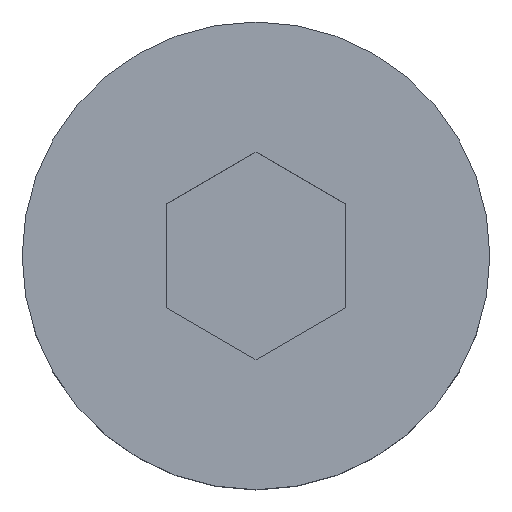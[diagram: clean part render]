
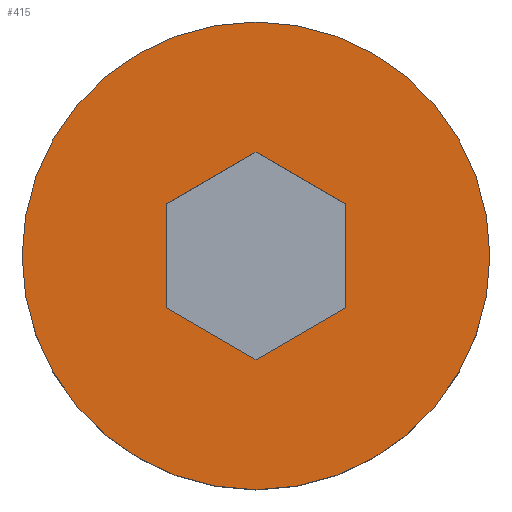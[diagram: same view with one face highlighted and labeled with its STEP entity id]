
A CAD part, top view. The second image highlights one B-rep face of the part: STEP entity #415.
In plain terms, the highlighted planar face has unit normal (0, 0, 1).
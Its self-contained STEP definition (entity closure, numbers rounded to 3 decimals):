
#13 = ORIENTED_EDGE ( 'NONE', *, *, #1077, .F. ) ;
#85 = ORIENTED_EDGE ( 'NONE', *, *, #1045, .F. ) ;
#152 = VECTOR ( 'NONE', #887, 1000. ) ;
#179 = VECTOR ( 'NONE', #514, 1000. ) ;
#182 = CARTESIAN_POINT ( 'NONE',  ( -13., 0., 8. ) ) ;
#192 = AXIS2_PLACEMENT_3D ( 'NONE', #941, #939, #890 ) ;
#220 = VECTOR ( 'NONE', #956, 1000. ) ;
#261 = ORIENTED_EDGE ( 'NONE', *, *, #1073, .F. ) ;
#344 = VERTEX_POINT ( 'NONE', #182 ) ;
#365 = EDGE_LOOP ( 'NONE', ( #1072, #734 ) ) ;
#400 = VERTEX_POINT ( 'NONE', #1049 ) ;
#406 = CARTESIAN_POINT ( 'NONE',  ( -5., 0., 8. ) ) ;
#407 = VECTOR ( 'NONE', #802, 1000. ) ;
#415 = ADVANCED_FACE ( 'NONE', ( #788, #820 ), #996, .F. ) ;
#449 = LINE ( 'NONE', #893, #220 ) ;
#458 = ORIENTED_EDGE ( 'NONE', *, *, #1063, .F. ) ;
#463 = VERTEX_POINT ( 'NONE', #523 ) ;
#466 = LINE ( 'NONE', #880, #511 ) ;
#511 = VECTOR ( 'NONE', #946, 1000. ) ;
#514 = DIRECTION ( 'NONE',  ( 0.866, -0.5, 0. ) ) ;
#523 = CARTESIAN_POINT ( 'NONE',  ( -5., -2.887, 8. ) ) ;
#534 = CARTESIAN_POINT ( 'NONE',  ( 0., -5.774, 8. ) ) ;
#547 = CIRCLE ( 'NONE', #1102, 13. ) ;
#594 = DIRECTION ( 'NONE',  ( 1., 0., 0. ) ) ;
#601 = EDGE_LOOP ( 'NONE', ( #85, #899, #458, #675, #261, #13 ) ) ;
#606 = VERTEX_POINT ( 'NONE', #534 ) ;
#619 = DIRECTION ( 'NONE',  ( 0., 0., 1. ) ) ;
#625 = DIRECTION ( 'NONE',  ( 1., 0., 0. ) ) ;
#661 = CARTESIAN_POINT ( 'NONE',  ( 0., 0., 8. ) ) ;
#675 = ORIENTED_EDGE ( 'NONE', *, *, #1066, .F. ) ;
#683 = LINE ( 'NONE', #406, #407 ) ;
#699 = VECTOR ( 'NONE', #849, 1000. ) ;
#734 = ORIENTED_EDGE ( 'NONE', *, *, #1042, .T. ) ;
#746 = VERTEX_POINT ( 'NONE', #991 ) ;
#755 = DIRECTION ( 'NONE',  ( 0., 0., 1. ) ) ;
#774 = CARTESIAN_POINT ( 'NONE',  ( 0., 5.774, 8. ) ) ;
#786 = CARTESIAN_POINT ( 'NONE',  ( 5., -2.887, 8. ) ) ;
#788 = FACE_OUTER_BOUND ( 'NONE', #365, .T. ) ;
#802 = DIRECTION ( 'NONE',  ( 0., -1., 0. ) ) ;
#806 = CARTESIAN_POINT ( 'NONE',  ( 13., 0., 8. ) ) ;
#817 = CIRCLE ( 'NONE', #1041, 13. ) ;
#820 = FACE_BOUND ( 'NONE', #601, .T. ) ;
#849 = DIRECTION ( 'NONE',  ( 0.866, 0.5, 0. ) ) ;
#852 = CARTESIAN_POINT ( 'NONE',  ( 7.25, -9.959, 8. ) ) ;
#855 = CARTESIAN_POINT ( 'NONE',  ( 12.25, 1.299, 8. ) ) ;
#880 = CARTESIAN_POINT ( 'NONE',  ( 12.25, -1.299, 8. ) ) ;
#884 = VERTEX_POINT ( 'NONE', #786 ) ;
#887 = DIRECTION ( 'NONE',  ( -0.866, -0.5, 0. ) ) ;
#890 = DIRECTION ( 'NONE',  ( -1., 0., 0. ) ) ;
#892 = LINE ( 'NONE', #852, #179 ) ;
#893 = CARTESIAN_POINT ( 'NONE',  ( 5., 0., 8. ) ) ;
#899 = ORIENTED_EDGE ( 'NONE', *, *, #1047, .F. ) ;
#939 = DIRECTION ( 'NONE',  ( 0., 0., -1. ) ) ;
#941 = CARTESIAN_POINT ( 'NONE',  ( 13., 0., 8. ) ) ;
#942 = CARTESIAN_POINT ( 'NONE',  ( 0., 0., 8. ) ) ;
#946 = DIRECTION ( 'NONE',  ( -0.866, 0.5, 0. ) ) ;
#956 = DIRECTION ( 'NONE',  ( 0., 1., 0. ) ) ;
#978 = CARTESIAN_POINT ( 'NONE',  ( 7.25, 9.959, 8. ) ) ;
#983 = EDGE_CURVE ( 'NONE', #1101, #344, #817, .T. ) ;
#989 = LINE ( 'NONE', #855, #699 ) ;
#991 = CARTESIAN_POINT ( 'NONE',  ( 5., 2.887, 8. ) ) ;
#996 = PLANE ( 'NONE',  #192 ) ;
#1041 = AXIS2_PLACEMENT_3D ( 'NONE', #661, #619, #594 ) ;
#1042 = EDGE_CURVE ( 'NONE', #344, #1101, #547, .T. ) ;
#1045 = EDGE_CURVE ( 'NONE', #1117, #400, #1050, .T. ) ;
#1047 = EDGE_CURVE ( 'NONE', #746, #1117, #466, .T. ) ;
#1049 = CARTESIAN_POINT ( 'NONE',  ( -5., 2.887, 8. ) ) ;
#1050 = LINE ( 'NONE', #978, #152 ) ;
#1063 = EDGE_CURVE ( 'NONE', #884, #746, #449, .T. ) ;
#1066 = EDGE_CURVE ( 'NONE', #606, #884, #989, .T. ) ;
#1072 = ORIENTED_EDGE ( 'NONE', *, *, #983, .T. ) ;
#1073 = EDGE_CURVE ( 'NONE', #463, #606, #892, .T. ) ;
#1077 = EDGE_CURVE ( 'NONE', #400, #463, #683, .T. ) ;
#1101 = VERTEX_POINT ( 'NONE', #806 ) ;
#1102 = AXIS2_PLACEMENT_3D ( 'NONE', #942, #755, #625 ) ;
#1117 = VERTEX_POINT ( 'NONE', #774 ) ;
